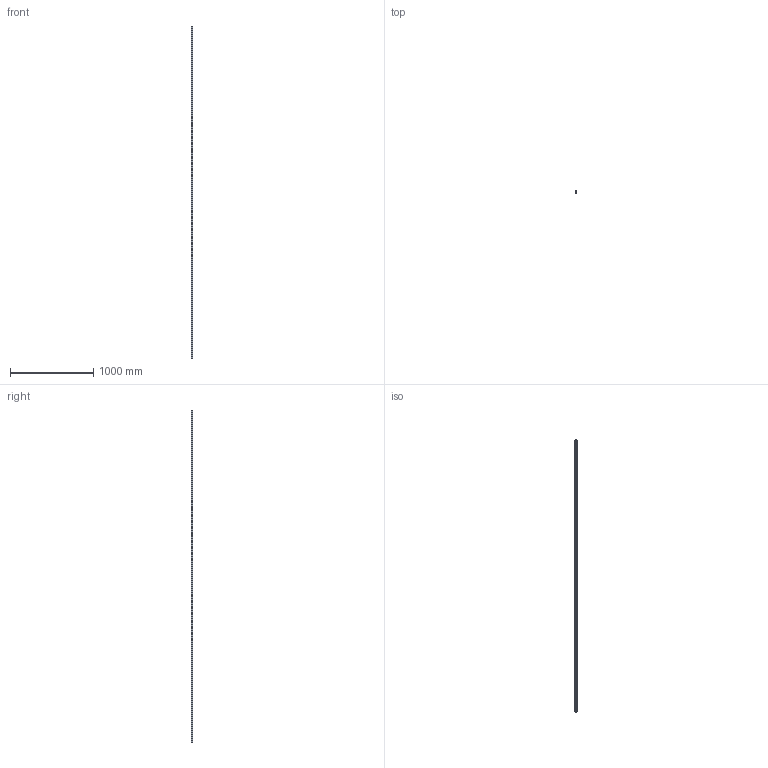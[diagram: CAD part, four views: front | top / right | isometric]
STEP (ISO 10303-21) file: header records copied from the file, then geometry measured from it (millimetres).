
FILE_DESCRIPTION (( 'STEP AP214' ), '1' );
FILE_NAME ('B25-4000-0054-0046.step', '2021-10-15T05:26:27', ( '' ), ( '' ), 'SwSTEP 2.0', 'SolidWorks 2010', '' );
FILE_SCHEMA (( 'AUTOMOTIVE_DESIGN' ));
Length unit declared in the file: millimetre
Products named in the file (1): B25-4000-0054-0046
Bounding box: 23 x 21.8 x 4000 mm (x, y, z)
Volume: 1637057 mm3; surface area: 384565.6 mm2
Topology: 1 solids, 1 shells, 293 faces, 741 edges, 384 vertices
Faces by surface type: cylinder 135, cone 132, plane 26
Entity records: 7819 total; most frequent: DIRECTION 1467, CARTESIAN_POINT 1287, ORIENTED_EDGE 1218, EDGE_CURVE 609, AXIS2_PLACEMENT_3D 564, VERTEX_POINT 384, EDGE_LOOP 359, VECTOR 339
